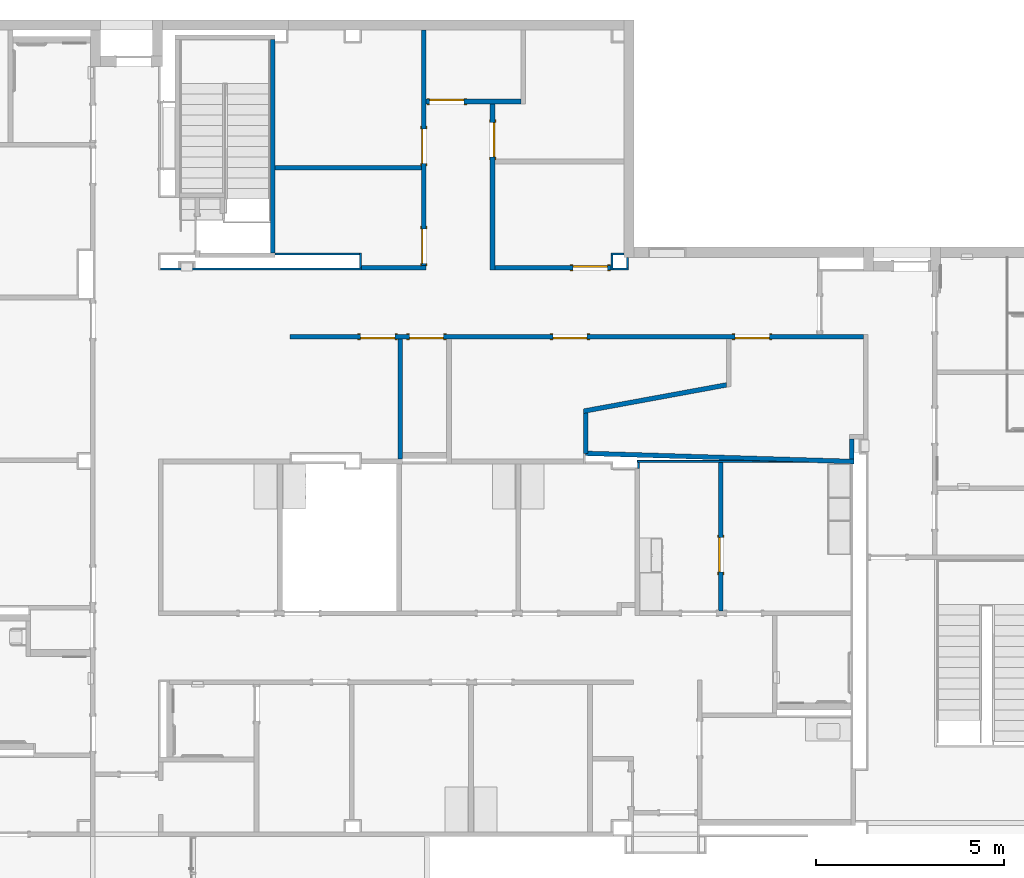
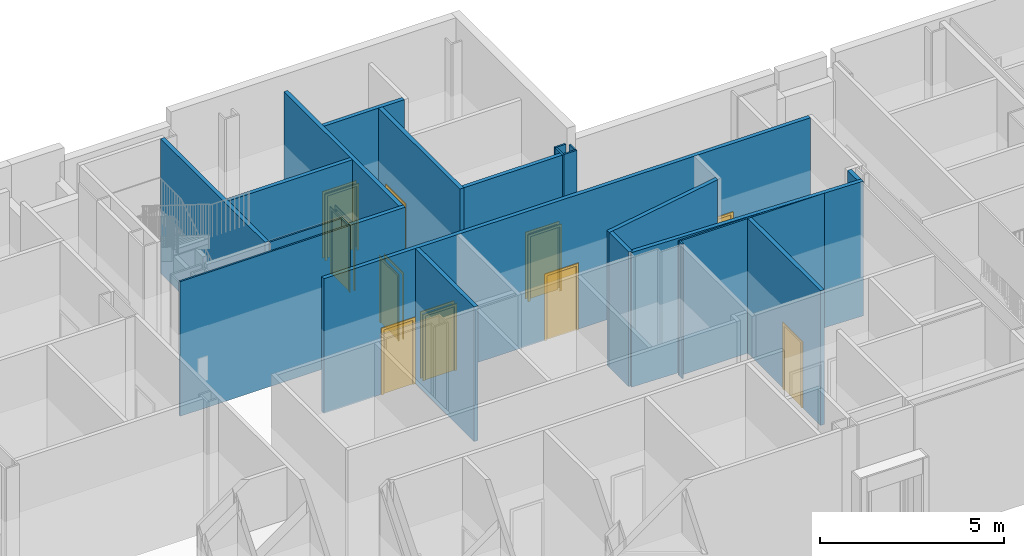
# One storey, part 34 of 87: 23 walls, 10 doors, 10 openings.
"""IFC2X3 building model written with IfcOpenShell, lengths in metres."""

from ifc_helpers import new_model, entity, si_unit, converted_unit, frame, frame_2d, origin, origin_2d_with_axis, place, context, project, spatial, polyline, rectangle, outline, extrude, clip, bounded_halfspace, source, transform, mapped, material, layer, layer_set, layer_usage, type_object, type_shapes, element, fill, save


model = new_model("IFC2X3")

# Units and contexts
model_context = context("Model", 3, precision=1e-09, world=origin())
plan_context = context("Plan", 3, precision=1e-09, world=origin())
ifc_project = project(units=[si_unit("LENGTHUNIT", "METRE"), si_unit("AREAUNIT", "SQUARE_METRE"), si_unit("VOLUMEUNIT", "CUBIC_METRE"), converted_unit("PLANEANGLEUNIT", "DEGREE", entity("IfcRatioMeasure", 0.01745329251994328), si_unit("PLANEANGLEUNIT", "RADIAN"), dimensions=[0, 0, 0, 0, 0, 0, 0]), si_unit("TIMEUNIT", "SECOND")], contexts=[model_context, plan_context])

# Site, building, storey
site_placement = place(None, origin())
site = spatial("IfcSite", under=ifc_project, at=site_placement, Name="Default", CompositionType="ELEMENT")
building_placement = place(site_placement, origin())
building = spatial("IfcBuilding", under=site, at=building_placement, CompositionType="ELEMENT")
storey_placement = place(building_placement, origin())
storey = spatial("IfcBuildingStorey", under=building, at=storey_placement, Name="First Floor", CompositionType="ELEMENT", Elevation=-3.531500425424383e-13)

# Walls
ifc_material_1 = material(Name="Type-X Plasterboard")
ifc_layer_1 = layer(ifc_material_1, 0.016)
ifc_material_2 = material(Name="Metal - Stud Layer")
ifc_layer_2 = layer(ifc_material_2, 0.092)
ifc_layer_3 = layer(ifc_material_1, 0.016)
ifc_layer_set_1 = layer_set([ifc_layer_1, ifc_layer_2, ifc_layer_3], Name="Basic Wall:Interior - Rated 1-HR (92mm Stud)")
ifc_layer_usage_1 = layer_usage(ifc_layer_set_1, "AXIS2", "NEGATIVE", 0.06200000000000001)
wall_1_placement = place(storey_placement, frame((-35.67800000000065, 50.31999999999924, 0.0), z_axis=(0.0, 0.0, 1.0), x_axis=(0.0, 1.0, 0.0)))
element("IfcWallStandardCase", 1, at=wall_1_placement, inside=storey, material=ifc_layer_usage_1, Name="Basic Wall:Interior - Rated 1-HR (92mm Stud)", ObjectType="Basic Wall:Interior - Rated 1-HR (92mm Stud)", context=model_context, shape_type="SweptSolid", body=[
    extrude(rectangle(XDim=5.675000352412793, YDim=0.1239999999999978, at=frame_2d((2.837500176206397, 0.0), x_axis=(-1.0, 0.0))), origin(), (0.0, 0.0, 1.0), 4.468000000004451),
])
ifc_material_3 = material(Name="Plasterboard")
ifc_layer_4 = layer(ifc_material_3, 0.016)
ifc_layer_5 = layer(ifc_material_2, 0.092)
ifc_layer_6 = layer(ifc_material_3, 0.016)
ifc_layer_set_2 = layer_set([ifc_layer_4, ifc_layer_5, ifc_layer_6], Name="Basic Wall:Interior - Partition (92mm Stud)")
ifc_layer_usage_2 = layer_usage(ifc_layer_set_2, "AXIS2", "NEGATIVE", 0.062)
wall_2_placement = place(storey_placement, frame((-31.60000000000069, 49.92199999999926, 0.0), z_axis=(0.0, 0.0, 1.0), x_axis=(-1.0, 0.0, 0.0)))
element("IfcWallStandardCase", 2, at=wall_2_placement, inside=storey, material=ifc_layer_usage_2, Name="Basic Wall:Interior - Partition (92mm Stud)", ObjectType="Basic Wall:Interior - Partition (92mm Stud)", context=model_context, shape_type="SweptSolid", body=[
    extrude(rectangle(XDim=1.719999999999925, YDim=0.1240000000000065, at=frame_2d((0.8599999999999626, 0.0), x_axis=(-1.0, 0.0))), origin(), (0.0, 0.0, 1.0), 4.46800000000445),
])

# Wall, openings, doors
ifc_layer_usage_3 = layer_usage(ifc_layer_set_2, "AXIS2", "NEGATIVE", 0.062)
wall_3_placement = place(storey_placement, frame((-31.66200000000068, 56.25299999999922, 0.0), z_axis=(0.0, 0.0, 1.0), x_axis=(0.0, -1.0, 0.0)))
wall_3 = element("IfcWallStandardCase", 3, at=wall_3_placement, inside=storey, material=ifc_layer_usage_3, Name="Basic Wall:Interior - Partition (92mm Stud)", ObjectType="Basic Wall:Interior - Partition (92mm Stud)", context=model_context, shape_type="SweptSolid", body=[
    extrude(rectangle(XDim=6.26899999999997, YDim=0.1239999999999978, at=frame_2d((3.134499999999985, 0.0), x_axis=(-1.0, 0.0))), origin(), (0.0, 0.0, 1.0), 4.46800000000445),
])
opening_1_placement = place(wall_3_placement, frame((3.548999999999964, 0.06199999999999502, 0.0)))
opening_1 = element("IfcOpeningElement", 4, at=opening_1_placement, cuts=wall_3, Name="M_Single-Flush:0915 x 2134mm:0915 x 2134mm:1", ObjectType="Opening", context=model_context, shape_type="SweptSolid", body=[
    extrude(rectangle(XDim=0.9149999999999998, YDim=2.134, at=frame_2d((1.067, 0.4574999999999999), x_axis=(0.0, -1.0))), frame((0.0, 0.0, 0.0), z_axis=(0.0, -1.0, 0.0), x_axis=(0.0, 0.0, 1.0)), (0.0, 0.0, 1.0), 0.124),
])
opening_2_placement = place(wall_3_placement, frame((6.208999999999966, 0.06199999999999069, 0.0)))
opening_2 = element("IfcOpeningElement", 5, at=opening_2_placement, cuts=wall_3, Name="M_Single-Flush:0915 x 2134mm:0915 x 2134mm:1", ObjectType="Opening", context=model_context, shape_type="SweptSolid", body=[
    extrude(rectangle(XDim=0.9149999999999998, YDim=2.134, at=frame_2d((1.067, 0.4574999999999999), x_axis=(0.0, -1.0))), frame((0.0, 0.0, 0.0), z_axis=(0.0, -1.0, 0.0), x_axis=(0.0, 0.0, 1.0)), (0.0, 0.0, 1.0), 0.124),
])
door_style_1 = type_object("IfcDoorStyle", Name="0915 x 2134mm", ConstructionType="NOTDEFINED", OperationType="SINGLE_SWING_LEFT", ParameterTakesPrecedence=False, Sizeable=False)
shared_shape_1 = source(origin(), model_context, "Body", "SweptSolid", [
    extrude(outline(polyline([(-0.5335, -1.123999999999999), (0.5334999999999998, -1.123999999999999), (0.5334999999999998, 1.086), (0.4574999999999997, 1.086), (0.4574999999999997, -1.048000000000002), (-0.4574999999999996, -1.048000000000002), (-0.4574999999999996, 1.086), (-0.5335, 1.086), (-0.5335, -1.123999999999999)])), frame((0.4575000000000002, 0.1489999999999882, 1.086), z_axis=(0.0, -1.0, 0.0), x_axis=(-1.0, 0.0, 0.0)), (0.0, 0.0, 1.0), 0.02499999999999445),
    extrude(outline(polyline([(-1.123999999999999, -0.5334999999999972), (1.085999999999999, -0.5334999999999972), (1.085999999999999, -0.4575000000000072), (-1.048, -0.4575000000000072), (-1.048, 0.4575000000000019), (1.085999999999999, 0.4575000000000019), (1.085999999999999, 0.5335000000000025), (-1.123999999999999, 0.5335000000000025), (-1.123999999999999, -0.5334999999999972)])), frame((0.4574999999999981, 0.0, 1.085999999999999), z_axis=(0.0, -1.0, 0.0), x_axis=(0.0, 0.0, -1.0)), (0.0, 0.0, 1.0), 0.02500000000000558),
    extrude(rectangle(XDim=0.9149999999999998, YDim=0.051, at=origin_2d_with_axis()), frame((0.4575000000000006, 0.09849999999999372, 0.0)), (0.0, 0.0, 1.0), 2.133999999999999),
])
type_shapes(door_style_1, [shared_shape_1])
door_1_placement = place(opening_1_placement, frame((0.0, 0.0, 0.0), z_axis=(0.0, 0.0, 1.0), x_axis=(-1.0, 0.0, 0.0)))
door_1 = element("IfcDoor", 6, at=door_1_placement, inside=storey, type_object=door_style_1, Name="M_Single-Flush:0915 x 2134mm:0915 x 2134mm", ObjectType="0915 x 2134mm", OverallHeight=2.134, OverallWidth=0.9149999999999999, context=model_context, shape_type="MappedRepresentation", body=[
    mapped(shared_shape_1, transform((0.0, 0.0, 0.0), scale=1.0)),
])
fill(opening_1, door_1)
door_2_placement = place(opening_2_placement, frame((0.0, 0.0, 0.0), z_axis=(0.0, 0.0, 1.0), x_axis=(-1.0, 0.0, 0.0)))
door_2 = element("IfcDoor", 7, at=door_2_placement, inside=storey, type_object=door_style_1, Name="M_Single-Flush:0915 x 2134mm:0915 x 2134mm", ObjectType="0915 x 2134mm", OverallHeight=2.134, OverallWidth=0.9149999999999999, context=model_context, shape_type="MappedRepresentation", body=[
    mapped(shared_shape_1, transform((0.0, 0.0, 0.0), scale=1.0)),
])
fill(opening_2, door_2)

# Wall
ifc_layer_usage_4 = layer_usage(ifc_layer_set_2, "AXIS2", "NEGATIVE", 0.062)
wall_4_placement = place(storey_placement, frame((-31.72400000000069, 52.58199999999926, 0.0), z_axis=(0.0, 0.0, 1.0), x_axis=(-1.0, 0.0, 0.0)))
element("IfcWallStandardCase", 8, at=wall_4_placement, inside=storey, material=ifc_layer_usage_4, Name="Basic Wall:Interior - Partition (92mm Stud)", ObjectType="Basic Wall:Interior - Partition (92mm Stud)", context=model_context, shape_type="SweptSolid", body=[
    extrude(rectangle(XDim=3.891999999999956, YDim=0.1240000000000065, at=frame_2d((1.945999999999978, 0.0), x_axis=(-1.0, 0.0))), origin(), (0.0, 0.0, 1.0), 4.46800000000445),
])

# Wall, opening, door
ifc_layer_usage_5 = layer_usage(ifc_layer_set_2, "AXIS2", "NEGATIVE", 0.062)
wall_5_placement = place(storey_placement, frame((-29.07400000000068, 54.34859999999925, 0.0), z_axis=(0.0, 0.0, 1.0), x_axis=(-1.0, 0.0, 0.0)))
wall_5 = element("IfcWallStandardCase", 9, at=wall_5_placement, inside=storey, material=ifc_layer_usage_5, Name="Basic Wall:Interior - Partition (92mm Stud)", ObjectType="Basic Wall:Interior - Partition (92mm Stud)", context=model_context, shape_type="SweptSolid", body=[
    extrude(rectangle(XDim=2.526000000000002, YDim=0.1240000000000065, at=frame_2d((1.263000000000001, 0.0), x_axis=(-1.0, 0.0))), origin(), (0.0, 0.0, 1.0), 4.46800000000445),
])
opening_3_placement = place(wall_5_placement, frame((2.426000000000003, 0.06199999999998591, 0.0)))
opening_3 = element("IfcOpeningElement", 10, at=opening_3_placement, cuts=wall_5, Name="M_Single-Flush:0915 x 2134mm:0915 x 2134mm:1", ObjectType="Opening", context=model_context, shape_type="SweptSolid", body=[
    extrude(rectangle(XDim=0.9149999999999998, YDim=2.134, at=frame_2d((1.067, 0.4575000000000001), x_axis=(0.0, -1.0))), frame((0.0, 0.0, 0.0), z_axis=(0.0, -1.0, 0.0), x_axis=(0.0, 0.0, 1.0)), (0.0, 0.0, 1.0), 0.124),
])
door_3_placement = place(opening_3_placement, frame((0.0, 0.0, 0.0), z_axis=(0.0, 0.0, 1.0), x_axis=(-1.0, 0.0, 0.0)))
door_3 = element("IfcDoor", 11, at=door_3_placement, inside=storey, type_object=door_style_1, Name="M_Single-Flush:0915 x 2134mm:0915 x 2134mm", ObjectType="0915 x 2134mm", OverallHeight=2.134, OverallWidth=0.9149999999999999, context=model_context, shape_type="MappedRepresentation", body=[
    mapped(shared_shape_1, transform((0.0, 0.0, 0.0), scale=1.0)),
])
fill(opening_3, door_3)

ifc_layer_usage_6 = layer_usage(ifc_layer_set_2, "AXIS2", "NEGATIVE", 0.062)
wall_6_placement = place(storey_placement, frame((-29.82800000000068, 49.85999999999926, 0.0), z_axis=(0.0, 0.0, 1.0), x_axis=(0.0, 1.0, 0.0)))
wall_6 = element("IfcWallStandardCase", 12, at=wall_6_placement, inside=storey, material=ifc_layer_usage_6, Name="Basic Wall:Interior - Partition (92mm Stud)", ObjectType="Basic Wall:Interior - Partition (92mm Stud)", context=model_context, shape_type="SweptSolid", body=[
    extrude(rectangle(XDim=4.42659999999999, YDim=0.1239999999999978, at=frame_2d((2.213299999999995, 0.0), x_axis=(-1.0, 0.0))), origin(), (0.0, 0.0, 1.0), 4.46800000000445),
])
opening_4_placement = place(wall_6_placement, frame((3.928999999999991, 0.06199999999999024, 0.0)))
opening_4 = element("IfcOpeningElement", 13, at=opening_4_placement, cuts=wall_6, Name="M_Single-Flush:0915 x 2134mm:0915 x 2134mm:1", ObjectType="Opening", context=model_context, shape_type="SweptSolid", body=[
    extrude(rectangle(XDim=0.9149999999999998, YDim=2.134, at=frame_2d((1.067, 0.4575), x_axis=(0.0, 1.0))), frame((0.0, 0.0, 0.0), z_axis=(0.0, -1.0, 0.0), x_axis=(0.0, 0.0, 1.0)), (0.0, 0.0, 1.0), 0.124),
])
door_style_2 = type_object("IfcDoorStyle", Name="0915 x 2134mm", ConstructionType="NOTDEFINED", OperationType="SINGLE_SWING_RIGHT", ParameterTakesPrecedence=False, Sizeable=False)
shared_shape_2 = source(origin(), model_context, "Body", "SweptSolid", [
    extrude(outline(polyline([(-0.5335, -1.123999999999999), (0.5334999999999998, -1.123999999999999), (0.5334999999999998, 1.086), (0.4574999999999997, 1.086), (0.4574999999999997, -1.048000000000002), (-0.4574999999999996, -1.048000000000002), (-0.4574999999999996, 1.086), (-0.5335, 1.086), (-0.5335, -1.123999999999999)])), frame((0.4575000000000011, 0.1239999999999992, 1.086), z_axis=(0.0, 1.0, 0.0), x_axis=(1.0, 0.0, 0.0)), (0.0, 0.0, 1.0), 0.02499999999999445),
    extrude(outline(polyline([(-1.123999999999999, -0.5334999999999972), (1.085999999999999, -0.5334999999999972), (1.085999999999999, -0.4575000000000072), (-1.048, -0.4575000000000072), (-1.048, 0.4575000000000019), (1.085999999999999, 0.4575000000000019), (1.085999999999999, 0.5335000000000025), (-1.123999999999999, 0.5335000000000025), (-1.123999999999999, -0.5334999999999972)])), frame((0.4575000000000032, -0.02500000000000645, 1.085999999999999), z_axis=(0.0, 1.0, 0.0), x_axis=(0.0, 0.0, -1.0)), (0.0, 0.0, 1.0), 0.02500000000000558),
    extrude(rectangle(XDim=0.051, YDim=0.9149999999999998, at=origin_2d_with_axis()), frame((0.4575000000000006, 0.09849999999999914, 0.0), z_axis=(0.0, 0.0, 1.0), x_axis=(0.0, 1.0, 0.0)), (0.0, 0.0, 1.0), 2.133999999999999),
])
type_shapes(door_style_2, [shared_shape_2])
door_4_placement = place(opening_4_placement, frame((0.0, 0.0, 0.0), z_axis=(0.0, 0.0, 1.0), x_axis=(-1.0, 0.0, 0.0)))
door_4 = element("IfcDoor", 14, at=door_4_placement, inside=storey, type_object=door_style_2, Name="M_Single-Flush:0915 x 2134mm:0915 x 2134mm", ObjectType="0915 x 2134mm", OverallHeight=2.134, OverallWidth=0.9149999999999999, context=model_context, shape_type="MappedRepresentation", body=[
    mapped(shared_shape_2, transform((0.0, 0.0, 0.0), scale=1.0)),
])
fill(opening_4, door_4)

ifc_layer_usage_7 = layer_usage(ifc_layer_set_2, "AXIS2", "NEGATIVE", 0.062)
wall_7_placement = place(storey_placement, frame((-26.67000000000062, 49.92199999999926, 0.0), z_axis=(0.0, 0.0, 1.0), x_axis=(-1.0, 0.0, 0.0)))
wall_7 = element("IfcWallStandardCase", 15, at=wall_7_placement, inside=storey, material=ifc_layer_usage_7, Name="Basic Wall:Interior - Partition (92mm Stud)", ObjectType="Basic Wall:Interior - Partition (92mm Stud)", context=model_context, shape_type="SweptSolid", body=[
    extrude(rectangle(XDim=3.096000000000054, YDim=0.1240000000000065, at=frame_2d((1.548000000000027, 0.0), x_axis=(-1.0, 0.0))), origin(), (0.0, 0.0, 1.0), 4.46800000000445),
])
opening_5_placement = place(wall_7_placement, frame((1.015000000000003, 0.06200000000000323, 0.0)))
opening_5 = element("IfcOpeningElement", 16, at=opening_5_placement, cuts=wall_7, Name="M_Single-Flush:0915 x 2134mm:0915 x 2134mm:1", ObjectType="Opening", context=model_context, shape_type="SweptSolid", body=[
    extrude(rectangle(XDim=0.9149999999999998, YDim=2.134, at=frame_2d((1.067, 0.4575), x_axis=(0.0, 1.0))), frame((0.0, 0.0, 0.0), z_axis=(0.0, -1.0, 0.0), x_axis=(0.0, 0.0, 1.0)), (0.0, 0.0, 1.0), 0.124),
])
door_5_placement = place(opening_5_placement, frame((0.0, 0.0, 0.0), z_axis=(0.0, 0.0, 1.0), x_axis=(-1.0, 0.0, 0.0)))
door_5 = element("IfcDoor", 17, at=door_5_placement, inside=storey, type_object=door_style_2, Name="M_Single-Flush:0915 x 2134mm:0915 x 2134mm", ObjectType="0915 x 2134mm", OverallHeight=2.134, OverallWidth=0.9149999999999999, context=model_context, shape_type="MappedRepresentation", body=[
    mapped(shared_shape_2, transform((0.0, 0.0, 0.0), scale=1.0)),
])
fill(opening_5, door_5)

# Wall
ifc_layer_usage_8 = layer_usage(ifc_layer_set_2, "AXIS2", "NEGATIVE", 0.062)
wall_8_placement = place(storey_placement, frame((-20.26700000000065, 45.35999999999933, 0.0), z_axis=(0.0, 0.0, 1.0), x_axis=(0.0, -1.0, 0.0)))
element("IfcWallStandardCase", 18, at=wall_8_placement, inside=storey, material=ifc_layer_usage_8, Name="Basic Wall:Interior - Partition (92mm Stud)", ObjectType="Basic Wall:Interior - Partition (92mm Stud)", context=model_context, shape_type="SweptSolid", body=[
    extrude(outline(polyline([(0.5288141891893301, -0.06200000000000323), (0.532584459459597, 0.0619999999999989), (0.0, 0.0619999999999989), (0.0, -0.06200000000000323), (0.5288141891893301, -0.06200000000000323)])), origin(), (0.0, 0.0, 1.0), 4.46800000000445),
])

# Wall, openings, doors
ifc_layer_usage_9 = layer_usage(ifc_layer_set_2, "AXIS2", "NEGATIVE", 0.062)
wall_9_placement = place(storey_placement, frame((-35.21500000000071, 48.08799999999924, 0.0)))
wall_9 = element("IfcWallStandardCase", 19, at=wall_9_placement, inside=storey, material=ifc_layer_usage_9, Name="Basic Wall:Interior - Partition (92mm Stud)", ObjectType="Basic Wall:Interior - Partition (92mm Stud)", context=model_context, shape_type="SweptSolid", body=[
    extrude(rectangle(XDim=15.26100000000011, YDim=0.1240000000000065, at=frame_2d((7.630500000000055, 0.0), x_axis=(-1.0, 0.0))), origin(), (0.0, 0.0, 1.0), 4.468000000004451),
])
opening_6_placement = place(wall_9_placement, frame((2.786000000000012, 0.06199999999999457, 0.0)))
opening_6 = element("IfcOpeningElement", 20, at=opening_6_placement, cuts=wall_9, Name="M_Single-Flush:0915 x 2134mm:0915 x 2134mm:1", ObjectType="Opening", context=model_context, shape_type="SweptSolid", body=[
    extrude(rectangle(XDim=0.9149999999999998, YDim=2.134, at=frame_2d((1.067, 0.4574999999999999), x_axis=(0.0, -1.0))), frame((0.0, 0.0, 0.0), z_axis=(0.0, -1.0, 0.0), x_axis=(0.0, 0.0, 1.0)), (0.0, 0.0, 1.0), 0.124),
])
opening_7_placement = place(wall_9_placement, frame((7.905000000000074, 0.06199999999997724, 0.0)))
opening_7 = element("IfcOpeningElement", 21, at=opening_7_placement, cuts=wall_9, Name="M_Single-Flush:0915 x 2134mm:0915 x 2134mm:1", ObjectType="Opening", context=model_context, shape_type="SweptSolid", body=[
    extrude(rectangle(XDim=0.9149999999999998, YDim=2.134, at=frame_2d((1.067, 0.4574999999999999), x_axis=(0.0, -1.0))), frame((0.0, 0.0, 0.0), z_axis=(0.0, -1.0, 0.0), x_axis=(0.0, 0.0, 1.0)), (0.0, 0.0, 1.0), 0.124),
])
opening_8_placement = place(wall_9_placement, frame((12.75500000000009, 0.06199999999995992, 0.0)))
opening_8 = element("IfcOpeningElement", 22, at=opening_8_placement, cuts=wall_9, Name="M_Single-Flush:0915 x 2134mm:0915 x 2134mm:1", ObjectType="Opening", context=model_context, shape_type="SweptSolid", body=[
    extrude(rectangle(XDim=0.9149999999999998, YDim=2.134, at=frame_2d((1.067, 0.4575), x_axis=(0.0, 1.0))), frame((0.0, 0.0, 0.0), z_axis=(0.0, -1.0, 0.0), x_axis=(0.0, 0.0, 1.0)), (0.0, 0.0, 1.0), 0.124),
])
opening_9_placement = place(wall_9_placement, frame((4.086000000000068, 0.06199999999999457, 0.0)))
opening_9 = element("IfcOpeningElement", 23, at=opening_9_placement, cuts=wall_9, Name="M_Single-Flush:0915 x 2134mm:0915 x 2134mm:1", ObjectType="Opening", context=model_context, shape_type="SweptSolid", body=[
    extrude(rectangle(XDim=0.9149999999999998, YDim=2.134, at=frame_2d((1.067, 0.4574999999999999), x_axis=(0.0, -1.0))), frame((0.0, 0.0, 0.0), z_axis=(0.0, -1.0, 0.0), x_axis=(0.0, 0.0, 1.0)), (0.0, 0.0, 1.0), 0.124),
])
door_6_placement = place(opening_8_placement, frame((0.0, 0.0, 0.0), z_axis=(0.0, 0.0, 1.0), x_axis=(-1.0, 0.0, 0.0)))
door_6 = element("IfcDoor", 24, at=door_6_placement, inside=storey, type_object=door_style_2, Name="M_Single-Flush:0915 x 2134mm:0915 x 2134mm", ObjectType="0915 x 2134mm", OverallHeight=2.134, OverallWidth=0.9149999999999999, context=model_context, shape_type="MappedRepresentation", body=[
    mapped(shared_shape_2, transform((0.0, 0.0, 0.0), scale=1.0)),
])
fill(opening_8, door_6)
door_7_placement = place(opening_6_placement, frame((0.0, 0.0, 0.0), z_axis=(0.0, 0.0, 1.0), x_axis=(-1.0, 0.0, 0.0)))
door_7 = element("IfcDoor", 25, at=door_7_placement, inside=storey, type_object=door_style_1, Name="M_Single-Flush:0915 x 2134mm:0915 x 2134mm", ObjectType="0915 x 2134mm", OverallHeight=2.134, OverallWidth=0.9149999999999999, context=model_context, shape_type="MappedRepresentation", body=[
    mapped(shared_shape_1, transform((0.0, 0.0, 0.0), scale=1.0)),
])
fill(opening_6, door_7)
door_8_placement = place(opening_7_placement, frame((0.0, 0.0, 0.0), z_axis=(0.0, 0.0, 1.0), x_axis=(-1.0, 0.0, 0.0)))
door_8 = element("IfcDoor", 26, at=door_8_placement, inside=storey, type_object=door_style_1, Name="M_Single-Flush:0915 x 2134mm:0915 x 2134mm", ObjectType="0915 x 2134mm", OverallHeight=2.134, OverallWidth=0.9149999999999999, context=model_context, shape_type="MappedRepresentation", body=[
    mapped(shared_shape_1, transform((0.0, 0.0, 0.0), scale=1.0)),
])
fill(opening_7, door_8)
door_9_placement = place(opening_9_placement, frame((0.0, 0.0, 0.0), z_axis=(0.0, 0.0, 1.0), x_axis=(-1.0, 0.0, 0.0)))
door_9 = element("IfcDoor", 27, at=door_9_placement, inside=storey, type_object=door_style_1, Name="M_Single-Flush:0915 x 2134mm:0915 x 2134mm", ObjectType="0915 x 2134mm", OverallHeight=2.134, OverallWidth=0.9149999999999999, context=model_context, shape_type="MappedRepresentation", body=[
    mapped(shared_shape_1, transform((0.0, 0.0, 0.0), scale=1.0)),
])
fill(opening_9, door_9)

# Walls
ifc_layer_usage_10 = layer_usage(ifc_layer_set_2, "AXIS2", "NEGATIVE", 0.062)
wall_10_placement = place(storey_placement, frame((-23.58779644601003, 46.80734301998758, 0.0), z_axis=(0.0, 0.0, 1.0), x_axis=(-0.9835378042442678, -0.1807024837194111, 0.0)))
element("IfcWallStandardCase", 28, at=wall_10_placement, inside=storey, material=ifc_layer_usage_10, Name="Basic Wall:Interior - Partition (92mm Stud)", ObjectType="Basic Wall:Interior - Partition (92mm Stud)", context=model_context, shape_type="SweptSolid", body=[
    extrude(outline(polyline([(3.873770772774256, -0.06200000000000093), (3.896552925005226, 0.06200000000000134), (3.770477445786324, 0.06199999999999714), (0.02278215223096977, 0.06200000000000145), (0.0, -0.06200000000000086), (3.873770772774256, -0.06200000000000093)])), origin(), (0.0, 0.0, 1.0), 4.46800000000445),
])
ifc_layer_usage_11 = layer_usage(ifc_layer_set_2, "AXIS2", "NEGATIVE", 0.062)
wall_11_placement = place(storey_placement, frame((-27.34700000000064, 46.06502903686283, 0.0), z_axis=(0.0, 0.0, 1.0), x_axis=(0.0, -1.0, 0.0)))
element("IfcWallStandardCase", 29, at=wall_11_placement, inside=storey, material=ifc_layer_usage_11, Name="Basic Wall:Interior - Partition (92mm Stud)", ObjectType="Basic Wall:Interior - Partition (92mm Stud)", context=model_context, shape_type="SweptSolid", body=[
    extrude(outline(polyline([(1.082486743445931, -0.06200000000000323), (1.082486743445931, 0.0619999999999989), (1.022343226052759, 0.0619999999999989), (0.0, 0.0619999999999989), (0.02278215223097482, -0.06200000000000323), (1.082486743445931, -0.06200000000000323)])), origin(), (0.0, 0.0, 1.0), 4.468000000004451),
])
ifc_layer_usage_12 = layer_usage(ifc_layer_set_2, "AXIS2", "NEGATIVE", 0.062)
wall_12_placement = place(storey_placement, frame((-27.35311573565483, 44.98272824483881, 0.0), z_axis=(0.0, 0.0, 1.0), x_axis=(0.9995380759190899, -0.03039136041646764, 0.0)))
element("IfcWallStandardCase", 30, at=wall_12_placement, inside=storey, material=ifc_layer_usage_12, Name="Basic Wall:Interior - Partition (92mm Stud)", ObjectType="Basic Wall:Interior - Partition (92mm Stud)", context=model_context, shape_type="SweptSolid", body=[
    extrude(outline(polyline([(7.153304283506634, -0.06200000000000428), (7.149534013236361, 0.06199999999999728), (7.025476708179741, 0.06199999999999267), (0.06626207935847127, 0.06199999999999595), (0.06808992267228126, 0.00188426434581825), (-0.001910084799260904, 0.0008205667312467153), (0.0, -0.06200000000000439), (4.170819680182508, -0.06200000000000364), (5.947640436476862, -0.06200000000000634), (7.06826500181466, -0.06200000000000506), (7.122289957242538, -0.06200000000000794), (7.153304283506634, -0.06200000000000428)])), origin(), (0.0, 0.0, 1.0), 4.468000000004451),
])
ifc_layer_7 = layer(ifc_material_2, 0.038)
ifc_layer_8 = layer(ifc_material_3, 0.016)
ifc_layer_set_3 = layer_set([ifc_layer_7, ifc_layer_8], Name="Basic Wall:Interior - Furring (38 mm Stud)")
ifc_layer_usage_13 = layer_usage(ifc_layer_set_3, "AXIS2", "POSITIVE", -0.027)
wall_13_placement = place(storey_placement, frame((-21.41010692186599, 44.7669999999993, 0.0), z_axis=(0.0, 0.0, 1.0), x_axis=(-1.0, 0.0, 0.0)))
element("IfcWallStandardCase", 31, at=wall_13_placement, inside=storey, material=ifc_layer_usage_13, Name="Basic Wall:Interior - Furring (38 mm Stud)", ObjectType="Basic Wall:Interior - Furring (38 mm Stud)", context=model_context, shape_type="Clipping", body=[
    clip(extrude(rectangle(XDim=4.559893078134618, YDim=0.05400000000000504, at=frame_2d((2.279946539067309, 0.0), x_axis=(-1.0, 0.0))), origin(), (0.0, 0.0, 1.0), 4.46800000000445), bounded_halfspace(frame((1.775999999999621, -0.02699999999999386, 0.0), z_axis=(0.0303913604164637, 0.99953807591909, 0.0), x_axis=(-0.99953807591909, 0.0303913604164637, 0.0)), True, frame((1.775999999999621, -0.02699999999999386, 0.0), z_axis=(0.0303913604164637, 0.99953807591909, 0.0), x_axis=(-0.99953807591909, 0.0303913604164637, 0.0)), polyline([(0.0, 0.0), (1.776820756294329, 0.0), (1.776820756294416, 4.46800000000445), (0.0, 4.46800000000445), (0.0, 0.0)]))),
])
ifc_layer_usage_14 = layer_usage(ifc_layer_set_2, "AXIS2", "NEGATIVE", 0.062)
wall_14_placement = place(storey_placement, frame((-32.2870000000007, 48.02599999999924, 0.0), z_axis=(0.0, 0.0, 1.0), x_axis=(0.0, -1.0, 0.0)))
element("IfcWallStandardCase", 32, at=wall_14_placement, inside=storey, material=ifc_layer_usage_14, Name="Basic Wall:Interior - Partition (92mm Stud)", ObjectType="Basic Wall:Interior - Partition (92mm Stud)", context=model_context, shape_type="SweptSolid", body=[
    extrude(rectangle(XDim=3.195999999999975, YDim=0.1239999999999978, at=frame_2d((1.597999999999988, 0.0), x_axis=(-1.0, 0.0))), origin(), (0.0, 0.0, 1.0), 4.46800000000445),
])

# Wall, opening, door
ifc_layer_usage_15 = layer_usage(ifc_layer_set_2, "AXIS2", "NEGATIVE", 0.062)
wall_15_placement = place(storey_placement, frame((-23.75200000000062, 44.73999999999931, 0.0), z_axis=(0.0, 0.0, 1.0), x_axis=(0.0, -1.0, 0.0)))
wall_15 = element("IfcWallStandardCase", 33, at=wall_15_placement, inside=storey, material=ifc_layer_usage_15, Name="Basic Wall:Interior - Partition (92mm Stud)", ObjectType="Basic Wall:Interior - Partition (92mm Stud)", context=model_context, shape_type="SweptSolid", body=[
    extrude(rectangle(XDim=3.955999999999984, YDim=0.1239999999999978, at=frame_2d((1.977999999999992, 0.0), x_axis=(-1.0, 0.0))), origin(), (0.0, 0.0, 1.0), 4.46800000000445),
])
opening_10_placement = place(wall_15_placement, frame((2.915999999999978, 0.06199999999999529, 0.0)))
opening_10 = element("IfcOpeningElement", 34, at=opening_10_placement, cuts=wall_15, Name="M_Single-Flush:0915 x 2134mm:0915 x 2134mm:1", ObjectType="Opening", context=model_context, shape_type="SweptSolid", body=[
    extrude(rectangle(XDim=0.9149999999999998, YDim=2.134, at=frame_2d((1.067, 0.4574999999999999), x_axis=(0.0, -1.0))), frame((0.0, 0.0, 0.0), z_axis=(0.0, -1.0, 0.0), x_axis=(0.0, 0.0, 1.0)), (0.0, 0.0, 1.0), 0.124),
])
door_10_placement = place(opening_10_placement, frame((0.0, 0.0, 0.0), z_axis=(0.0, 0.0, 1.0), x_axis=(-1.0, 0.0, 0.0)))
door_10 = element("IfcDoor", 35, at=door_10_placement, inside=storey, type_object=door_style_1, Name="M_Single-Flush:0915 x 2134mm:0915 x 2134mm", ObjectType="0915 x 2134mm", OverallHeight=2.134, OverallWidth=0.9149999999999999, context=model_context, shape_type="MappedRepresentation", body=[
    mapped(shared_shape_1, transform((0.0, 0.0, 0.0), scale=1.0)),
])
fill(opening_10, door_10)

# Walls
ifc_layer_usage_16 = layer_usage(ifc_layer_set_3, "AXIS2", "NEGATIVE", 0.027)
wall_16_placement = place(storey_placement, frame((-25.94300000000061, 44.57699999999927, 0.0), z_axis=(0.0, 0.0, 1.0), x_axis=(0.0, 1.0, 0.0)))
element("IfcWallStandardCase", 36, at=wall_16_placement, inside=storey, material=ifc_layer_usage_16, Name="Basic Wall:Interior - Furring (38 mm Stud)", ObjectType="Basic Wall:Interior - Furring (38 mm Stud)", context=model_context, shape_type="SweptSolid", body=[
    extrude(rectangle(XDim=0.1630000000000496, YDim=0.05399999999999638, at=frame_2d((0.08150000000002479, 0.0), x_axis=(-1.0, 0.0))), origin(), (0.0, 0.0, 1.0), 4.468000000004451),
])
ifc_layer_usage_17 = layer_usage(ifc_layer_set_3, "AXIS2", "NEGATIVE", 0.027)
wall_17_placement = place(storey_placement, frame((-38.66600000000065, 49.88699999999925, 0.0)))
element("IfcWallStandardCase", 37, at=wall_17_placement, inside=storey, material=ifc_layer_usage_17, Name="Basic Wall:Interior - Furring (38 mm Stud)", ObjectType="Basic Wall:Interior - Furring (38 mm Stud)", context=model_context, shape_type="SweptSolid", body=[
    extrude(rectangle(XDim=5.346000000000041, YDim=0.05400000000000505, at=frame_2d((2.673000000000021, 0.0), x_axis=(-1.0, 0.0))), origin(), (0.0, 0.0, 1.0), 4.46800000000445),
])
ifc_layer_usage_18 = layer_usage(ifc_layer_set_3, "AXIS2", "NEGATIVE", 0.027)
wall_18_placement = place(storey_placement, frame((-33.34700000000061, 49.91399999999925, 0.0), z_axis=(0.0, 0.0, 1.0), x_axis=(0.0, 1.0, 0.0)))
element("IfcWallStandardCase", 38, at=wall_18_placement, inside=storey, material=ifc_layer_usage_18, Name="Basic Wall:Interior - Furring (38 mm Stud)", ObjectType="Basic Wall:Interior - Furring (38 mm Stud)", context=model_context, shape_type="SweptSolid", body=[
    extrude(rectangle(XDim=0.4059999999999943, YDim=0.05399999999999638, at=frame_2d((0.2029999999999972, 0.0), x_axis=(-1.0, 0.0))), origin(), (0.0, 0.0, 1.0), 4.468000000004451),
])
ifc_layer_usage_19 = layer_usage(ifc_layer_set_3, "AXIS2", "NEGATIVE", 0.027)
wall_19_placement = place(storey_placement, frame((-33.37400000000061, 50.29299999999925, 0.0), z_axis=(0.0, 0.0, 1.0), x_axis=(-1.0, 0.0, 0.0)))
element("IfcWallStandardCase", 39, at=wall_19_placement, inside=storey, material=ifc_layer_usage_19, Name="Basic Wall:Interior - Furring (38 mm Stud)", ObjectType="Basic Wall:Interior - Furring (38 mm Stud)", context=model_context, shape_type="SweptSolid", body=[
    extrude(rectangle(XDim=2.242000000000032, YDim=0.05400000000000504, at=frame_2d((1.121000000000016, 0.0), x_axis=(-1.0, 0.0))), origin(), (0.0, 0.0, 1.0), 4.46800000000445),
])
ifc_layer_usage_20 = layer_usage(ifc_layer_set_3, "AXIS2", "NEGATIVE", 0.027)
wall_20_placement = place(storey_placement, frame((-26.32700000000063, 50.29299999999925, 0.0), z_axis=(0.0, 0.0, 1.0), x_axis=(-1.0, 0.0, 0.0)))
element("IfcWallStandardCase", 40, at=wall_20_placement, inside=storey, material=ifc_layer_usage_20, Name="Basic Wall:Interior - Furring (38 mm Stud)", ObjectType="Basic Wall:Interior - Furring (38 mm Stud)", context=model_context, shape_type="SweptSolid", body=[
    extrude(rectangle(XDim=0.342999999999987, YDim=0.05400000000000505, at=frame_2d((0.1714999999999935, 0.0), x_axis=(-1.0, 0.0))), origin(), (0.0, 0.0, 1.0), 4.46800000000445),
])
ifc_layer_usage_21 = layer_usage(ifc_layer_set_3, "AXIS2", "NEGATIVE", 0.027)
wall_21_placement = place(storey_placement, frame((-26.64300000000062, 50.26599999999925, 0.0), z_axis=(0.0, 0.0, 1.0), x_axis=(0.0, -1.0, 0.0)))
element("IfcWallStandardCase", 41, at=wall_21_placement, inside=storey, material=ifc_layer_usage_21, Name="Basic Wall:Interior - Furring (38 mm Stud)", ObjectType="Basic Wall:Interior - Furring (38 mm Stud)", context=model_context, shape_type="SweptSolid", body=[
    extrude(rectangle(XDim=0.4059999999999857, YDim=0.05399999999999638, at=frame_2d((0.2029999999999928, 0.0), x_axis=(-1.0, 0.0))), origin(), (0.0, 0.0, 1.0), 4.46800000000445),
])
ifc_layer_usage_22 = layer_usage(ifc_layer_set_3, "AXIS2", "NEGATIVE", 0.027)
wall_22_placement = place(storey_placement, frame((-26.61600000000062, 49.88699999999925, 0.0)))
element("IfcWallStandardCase", 42, at=wall_22_placement, inside=storey, material=ifc_layer_usage_22, Name="Basic Wall:Interior - Furring (38 mm Stud)", ObjectType="Basic Wall:Interior - Furring (38 mm Stud)", context=model_context, shape_type="SweptSolid", body=[
    extrude(rectangle(XDim=0.4060000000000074, YDim=0.05400000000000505, at=frame_2d((0.2030000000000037, 0.0), x_axis=(-1.0, 0.0))), origin(), (0.0, 0.0, 1.0), 4.46800000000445),
])
ifc_layer_usage_23 = layer_usage(ifc_layer_set_3, "AXIS2", "NEGATIVE", 0.027)
wall_23_placement = place(storey_placement, frame((-26.23700000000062, 49.91399999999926, 0.0), z_axis=(0.0, 0.0, 1.0), x_axis=(0.0, 1.0, 0.0)))
element("IfcWallStandardCase", 43, at=wall_23_placement, inside=storey, material=ifc_layer_usage_23, Name="Basic Wall:Interior - Furring (38 mm Stud)", ObjectType="Basic Wall:Interior - Furring (38 mm Stud)", context=model_context, shape_type="SweptSolid", body=[
    extrude(rectangle(XDim=0.2889999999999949, YDim=0.05399999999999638, at=frame_2d((0.1444999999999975, 0.0), x_axis=(-1.0, 0.0))), origin(), (0.0, 0.0, 1.0), 4.46800000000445),
])

save(model, "model.ifc")
